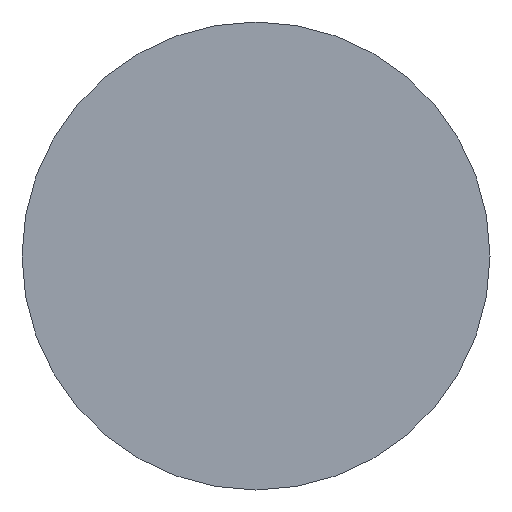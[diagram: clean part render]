
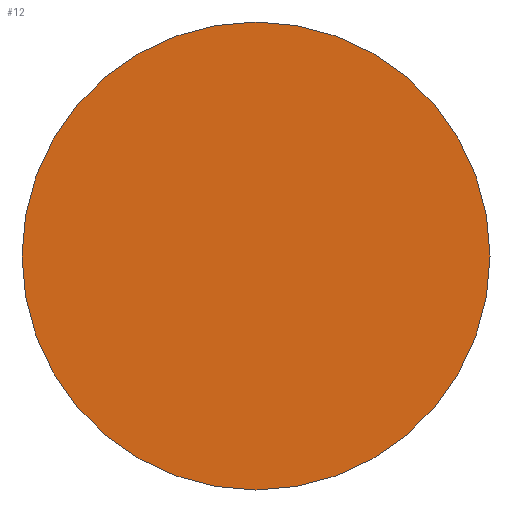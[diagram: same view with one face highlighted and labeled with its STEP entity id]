
A CAD part, left-side view. The second image highlights one B-rep face of the part: STEP entity #12.
In plain terms, the highlighted planar face has unit normal (-1, 0, 0).
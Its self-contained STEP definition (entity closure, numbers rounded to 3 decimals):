
#12 = ADVANCED_FACE ( 'NONE', ( #110 ), #111, .F. ) ;
#34 = VERTEX_POINT ( 'NONE', #186 ) ;
#43 = CIRCLE ( 'NONE', #44, 15. ) ;
#44 = AXIS2_PLACEMENT_3D ( 'NONE', #45, #46, #47 ) ;
#45 = CARTESIAN_POINT ( 'NONE',  ( 0., 0., 0. ) ) ;
#46 = DIRECTION ( 'NONE',  ( -1., 0., 0. ) ) ;
#47 = DIRECTION ( 'NONE',  ( 0., 0., 1. ) ) ;
#60 = CIRCLE ( 'NONE', #61, 15. ) ;
#61 = AXIS2_PLACEMENT_3D ( 'NONE', #62, #63, #64 ) ;
#62 = CARTESIAN_POINT ( 'NONE',  ( 0., 0., 0. ) ) ;
#63 = DIRECTION ( 'NONE',  ( -1., 0., 0. ) ) ;
#64 = DIRECTION ( 'NONE',  ( 0., 0., 1. ) ) ;
#110 = FACE_OUTER_BOUND ( 'NONE', #367, .T. ) ;
#111 = PLANE ( 'NONE',  #112 ) ;
#112 = AXIS2_PLACEMENT_3D ( 'NONE', #113, #114, #115 ) ;
#113 = CARTESIAN_POINT ( 'NONE',  ( 0., 15., 0. ) ) ;
#114 = DIRECTION ( 'NONE',  ( 1., 0., 0. ) ) ;
#115 = DIRECTION ( 'NONE',  ( 0., 0., -1. ) ) ;
#186 = CARTESIAN_POINT ( 'NONE',  ( 0., 0., 15. ) ) ;
#187 = CARTESIAN_POINT ( 'NONE',  ( 0., 0., -15. ) ) ;
#195 = ORIENTED_EDGE ( 'NONE', *, *, #251, .T. ) ;
#231 = EDGE_CURVE ( 'NONE', #363, #34, #43, .T. ) ;
#251 = EDGE_CURVE ( 'NONE', #34, #363, #60, .T. ) ;
#362 = ORIENTED_EDGE ( 'NONE', *, *, #231, .T. ) ;
#363 = VERTEX_POINT ( 'NONE', #187 ) ;
#367 = EDGE_LOOP ( 'NONE', ( #195, #362 ) ) ;
